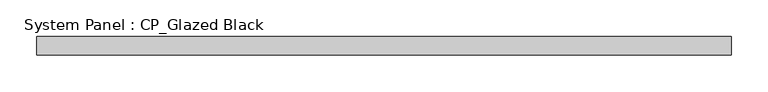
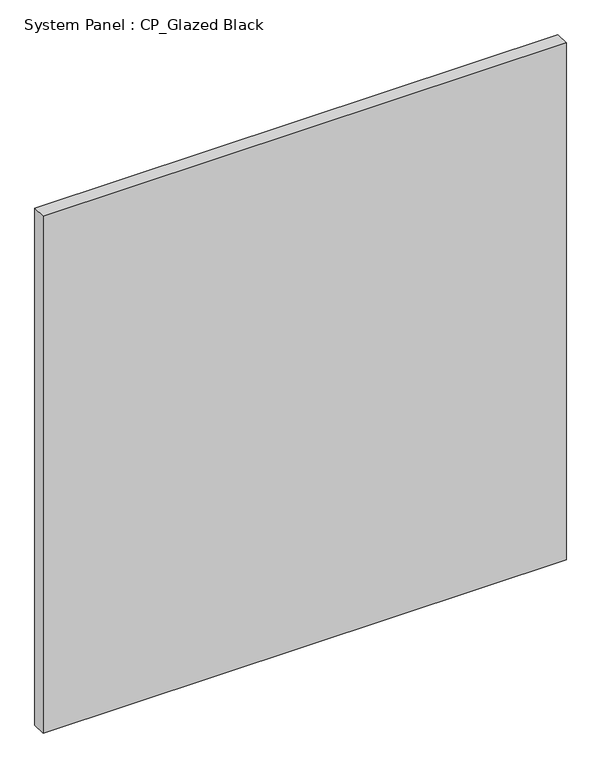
"""IFC4 building model written with IfcOpenShell, lengths in millimetres: plate geometry, System Panel : CP_Glazed Black."""

from ifc_helpers import new_model, si_unit, origin, origin_with_axes, place, context, project, spatial, polyline, outline, extrude, source, transform, mapped, element, save


def system_panel_cp_glazed_black_664f6579(model_context):
    return source(origin(), model_context, "Body", "SweptSolid", [
        extrude(outline(polyline([(473.075, 19.05), (-473.075, 19.05), (-473.075, 44.45), (473.075, 44.45), (473.075, 19.05)])), origin_with_axes(), (0.0, 0.0, 1.0), 987.425),
    ])


if __name__ == "__main__":
    model = new_model("IFC4")
    model_context = context("Model", 3, world=origin())
    ifc_project = project(units=[si_unit("LENGTHUNIT", "METRE", prefix="MILLI")], contexts=[model_context])
    site = spatial("IfcSite", under=ifc_project)
    building = spatial("IfcBuilding", under=site)
    placement = place(None, origin())
    system_panel_cp_glazed_black_shape = system_panel_cp_glazed_black_664f6579(model_context)
    element("IfcPlate", 1, ObjectType="System Panel : CP_Glazed Black", at=placement, inside=building, context=model_context, shape_type="MappedRepresentation", body=[
        mapped(system_panel_cp_glazed_black_shape, transform((0.0, 0.0, 0.0), x_axis=(1.0, 0.0, 0.0), y_axis=(0.0, 1.0, 0.0), z_axis=(0.0, 0.0, 1.0))),
    ])
    save(model, "model.ifc")
